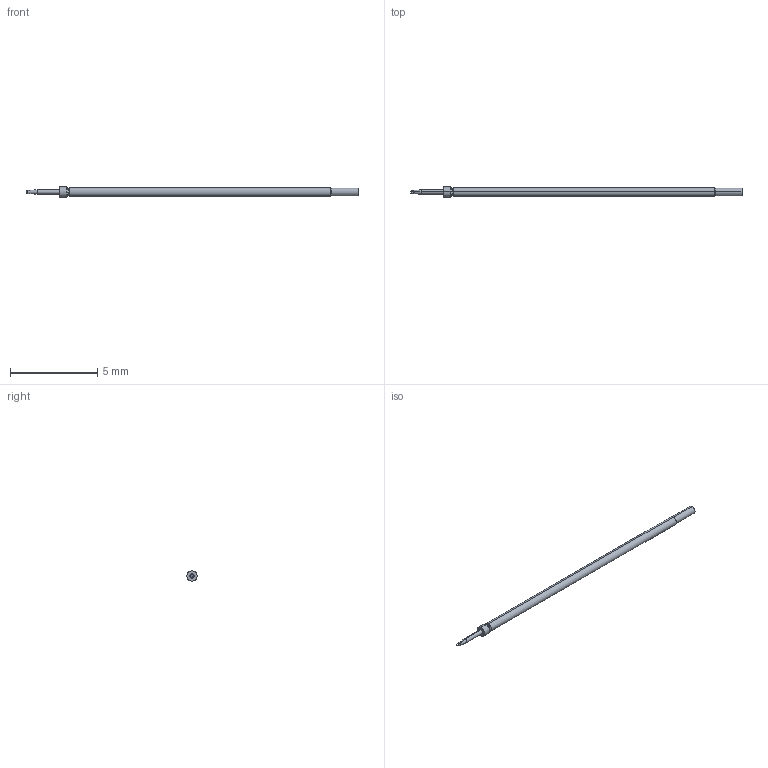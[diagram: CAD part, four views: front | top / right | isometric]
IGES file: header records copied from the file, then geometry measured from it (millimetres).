
Start section: SolidWorks IGES file using analytic representation for surfaces
Global section: file name: Z:\probe solid model mockups\Solidworks models\MEP-20 IGS files\MEP-20U.IGS; native system: SolidWorks 2006 by SolidWorks Corporation; preprocessor: SolidWorks 2006 by SolidWorks Corporation; author: tsakatani; date: 071219.112804; units: inch
Bounding box: 19.05 x 0.58 x 0.58 mm (x, y, z)
Surface area: 29.1 mm2 (no closed solid volume)
Topology: 0 solids, 0 shells, 26 faces, 154 edges, 154 vertices
Faces by surface type: revolution 14, bspline 12
